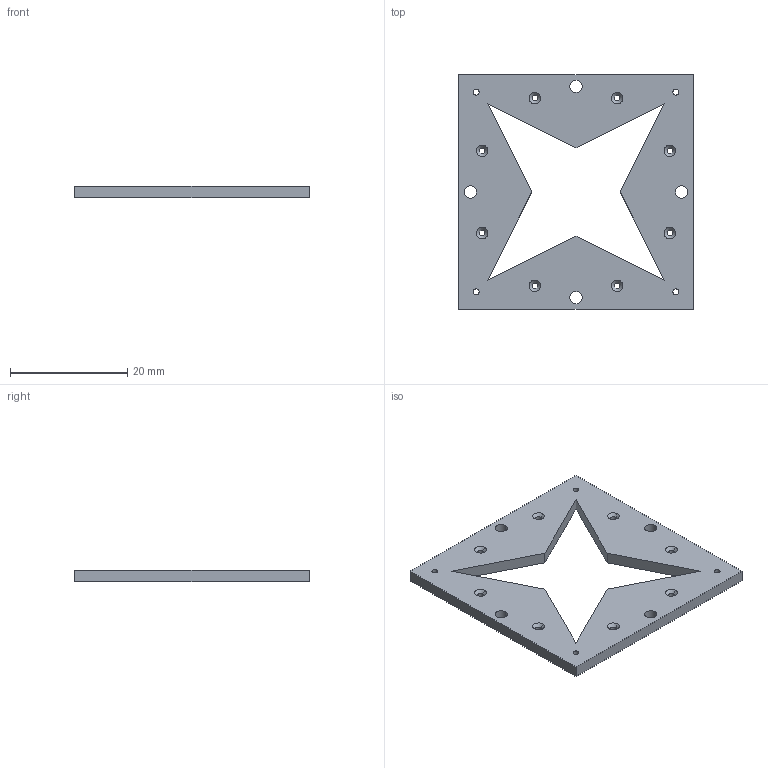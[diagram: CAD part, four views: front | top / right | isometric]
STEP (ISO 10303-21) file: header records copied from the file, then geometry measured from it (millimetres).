
FILE_DESCRIPTION (( 'STEP AP214' ), '1' );
FILE_NAME ('G_1.STEP', '2016-02-28T08:54:21', ( '' ), ( '' ), 'SwSTEP 2.0', 'SolidWorks 2012', '' );
FILE_SCHEMA (( 'AUTOMOTIVE_DESIGN' ));
Length unit declared in the file: millimetre
Products named in the file (1): G_1
Bounding box: 40 x 40 x 2 mm (x, y, z)
Volume: 2249.3 mm3; surface area: 2965.2 mm2
Topology: 1 solids, 1 shells, 62 faces, 164 edges, 104 vertices
Faces by surface type: cylinder 32, cone 16, plane 14
Entity records: 2042 total; most frequent: DIRECTION 370, CARTESIAN_POINT 331, ORIENTED_EDGE 328, EDGE_CURVE 164, AXIS2_PLACEMENT_3D 143, VERTEX_POINT 104, EDGE_LOOP 96, LINE 84
